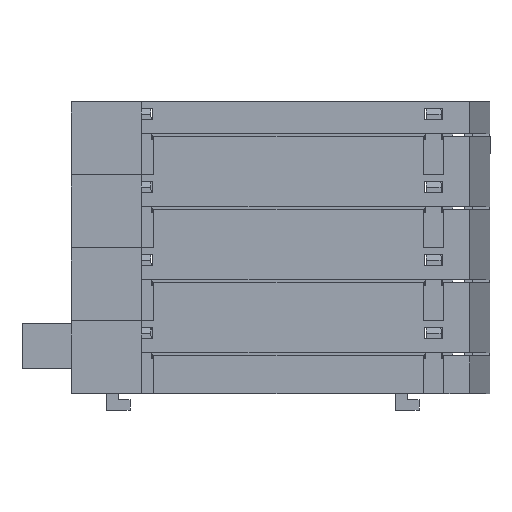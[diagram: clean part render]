
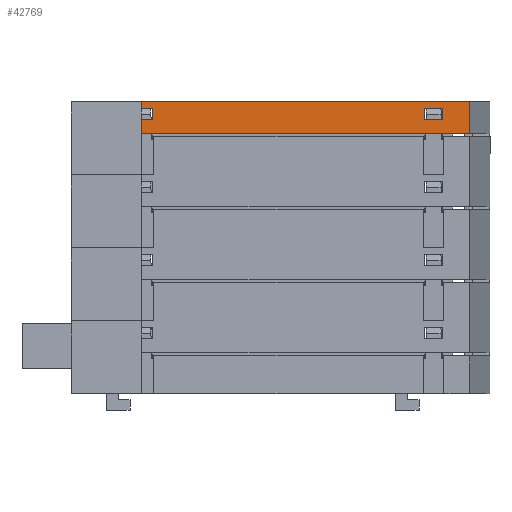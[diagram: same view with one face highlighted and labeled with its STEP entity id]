
A CAD part, left-side view. The second image highlights one B-rep face of the part: STEP entity #42769.
In plain terms, the highlighted planar face has unit normal (-1, 0, 0) as drawn and (0, -1, 0) by its records, which use the part's own axes.
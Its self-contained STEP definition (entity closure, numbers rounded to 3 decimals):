
#19 = ORIENTED_EDGE ( 'NONE', *, *, #40170, .T. ) ;
#1231 = CARTESIAN_POINT ( 'NONE',  ( 2.4, 0., -57.545 ) ) ;
#1249 = EDGE_CURVE ( 'NONE', #78023, #34772, #68730, .T. ) ;
#2098 = DIRECTION ( 'NONE',  ( 0., 0., -1. ) ) ;
#2558 = DIRECTION ( 'NONE',  ( 0., 0., 1. ) ) ;
#2934 = AXIS2_PLACEMENT_3D ( 'NONE', #75471, #56034, #69493 ) ;
#3217 = EDGE_CURVE ( 'NONE', #11211, #75873, #22570, .T. ) ;
#5121 = VECTOR ( 'NONE', #64953, 1000. ) ;
#6772 = VERTEX_POINT ( 'NONE', #62043 ) ;
#8327 = CARTESIAN_POINT ( 'NONE',  ( 2.4, 0., -60.645 ) ) ;
#8829 = CARTESIAN_POINT ( 'NONE',  ( 4.4, 0., -60.645 ) ) ;
#9045 = ORIENTED_EDGE ( 'NONE', *, *, #64844, .T. ) ;
#9270 = CARTESIAN_POINT ( 'NONE',  ( 2.4, 0., -60.645 ) ) ;
#9346 = EDGE_CURVE ( 'NONE', #17632, #37187, #44613, .T. ) ;
#11211 = VERTEX_POINT ( 'NONE', #41619 ) ;
#11876 = CARTESIAN_POINT ( 'NONE',  ( 0., 0., 0. ) ) ;
#12423 = VECTOR ( 'NONE', #20308, 1000. ) ;
#13616 = CARTESIAN_POINT ( 'NONE',  ( 5.5, 0., 0. ) ) ;
#14176 = CARTESIAN_POINT ( 'NONE',  ( 0., 0., 0. ) ) ;
#14658 = EDGE_LOOP ( 'NONE', ( #32491, #25393, #37541, #19 ) ) ;
#16164 = CARTESIAN_POINT ( 'NONE',  ( 2.4, 0., -60.645 ) ) ;
#17284 = CARTESIAN_POINT ( 'NONE',  ( 5.5, 0., 0. ) ) ;
#17632 = VERTEX_POINT ( 'NONE', #23940 ) ;
#19520 = LINE ( 'NONE', #1231, #12423 ) ;
#20308 = DIRECTION ( 'NONE',  ( 1., 0., 0. ) ) ;
#22036 = EDGE_CURVE ( 'NONE', #74370, #11211, #42747, .T. ) ;
#22304 = CARTESIAN_POINT ( 'NONE',  ( 4.4, 0., -10.945 ) ) ;
#22570 = LINE ( 'NONE', #61097, #52031 ) ;
#22925 = CARTESIAN_POINT ( 'NONE',  ( 2.4, 0., -10.945 ) ) ;
#23940 = CARTESIAN_POINT ( 'NONE',  ( 4.4, 0., -60.645 ) ) ;
#24787 = CARTESIAN_POINT ( 'NONE',  ( 2.4, 0., -10.945 ) ) ;
#25315 = VECTOR ( 'NONE', #55882, 1000. ) ;
#25393 = ORIENTED_EDGE ( 'NONE', *, *, #3217, .F. ) ;
#25664 = VERTEX_POINT ( 'NONE', #11876 ) ;
#26490 = CARTESIAN_POINT ( 'NONE',  ( 0., 0., -65.25 ) ) ;
#26616 = EDGE_CURVE ( 'NONE', #25664, #75873, #32194, .T. ) ;
#26672 = VECTOR ( 'NONE', #2558, 1000. ) ;
#28203 = DIRECTION ( 'NONE',  ( -1., 0., 0. ) ) ;
#28348 = LINE ( 'NONE', #22304, #5121 ) ;
#29958 = ORIENTED_EDGE ( 'NONE', *, *, #53140, .T. ) ;
#31552 = ORIENTED_EDGE ( 'NONE', *, *, #62838, .T. ) ;
#32194 = LINE ( 'NONE', #14176, #75654 ) ;
#32491 = ORIENTED_EDGE ( 'NONE', *, *, #26616, .T. ) ;
#32577 = DIRECTION ( 'NONE',  ( 1., 0., 0. ) ) ;
#33720 = EDGE_LOOP ( 'NONE', ( #9045, #65513, #40112, #73793 ) ) ;
#33898 = DIRECTION ( 'NONE',  ( -1., 0., 0. ) ) ;
#34772 = VERTEX_POINT ( 'NONE', #40253 ) ;
#36361 = LINE ( 'NONE', #42698, #42123 ) ;
#37187 = VERTEX_POINT ( 'NONE', #16164 ) ;
#37541 = ORIENTED_EDGE ( 'NONE', *, *, #22036, .F. ) ;
#37998 = CARTESIAN_POINT ( 'NONE',  ( 2.4, 0., -7.845 ) ) ;
#38513 = PLANE ( 'NONE',  #2934 ) ;
#38543 = DIRECTION ( 'NONE',  ( 0., 0., 1. ) ) ;
#38758 = LINE ( 'NONE', #8829, #51881 ) ;
#39658 = EDGE_LOOP ( 'NONE', ( #65013, #31552, #70386, #29958 ) ) ;
#40112 = ORIENTED_EDGE ( 'NONE', *, *, #58835, .T. ) ;
#40170 = EDGE_CURVE ( 'NONE', #74370, #25664, #36361, .T. ) ;
#40253 = CARTESIAN_POINT ( 'NONE',  ( 4.4, 0., -7.845 ) ) ;
#40634 = VERTEX_POINT ( 'NONE', #41245 ) ;
#40984 = VECTOR ( 'NONE', #33898, 1000. ) ;
#41245 = CARTESIAN_POINT ( 'NONE',  ( 4.4, 0., -10.945 ) ) ;
#41619 = CARTESIAN_POINT ( 'NONE',  ( 5.5, 0., -65.25 ) ) ;
#42123 = VECTOR ( 'NONE', #72156, 1000. ) ;
#42698 = CARTESIAN_POINT ( 'NONE',  ( 5.5, 0., 0. ) ) ;
#42747 = LINE ( 'NONE', #13616, #25315 ) ;
#42769 = ADVANCED_FACE ( 'NONE', ( #68705, #75858, #45666 ), #38513, .F. ) ;
#44613 = LINE ( 'NONE', #8327, #40984 ) ;
#45666 = FACE_OUTER_BOUND ( 'NONE', #14658, .T. ) ;
#48734 = VECTOR ( 'NONE', #38543, 1000. ) ;
#51285 = LINE ( 'NONE', #68352, #48734 ) ;
#51881 = VECTOR ( 'NONE', #2098, 1000. ) ;
#52031 = VECTOR ( 'NONE', #28203, 1000. ) ;
#53140 = EDGE_CURVE ( 'NONE', #61488, #17632, #38758, .T. ) ;
#54302 = VECTOR ( 'NONE', #32577, 1000. ) ;
#55089 = LINE ( 'NONE', #24787, #77773 ) ;
#55882 = DIRECTION ( 'NONE',  ( 0., 0., -1. ) ) ;
#56034 = DIRECTION ( 'NONE',  ( 0., 1., 0. ) ) ;
#57242 = CARTESIAN_POINT ( 'NONE',  ( 2.4, 0., -7.845 ) ) ;
#57246 = DIRECTION ( 'NONE',  ( 0., 0., -1. ) ) ;
#58835 = EDGE_CURVE ( 'NONE', #34772, #40634, #28348, .T. ) ;
#59669 = CARTESIAN_POINT ( 'NONE',  ( 4.4, 0., -57.545 ) ) ;
#61097 = CARTESIAN_POINT ( 'NONE',  ( 5.5, 0., -65.25 ) ) ;
#61488 = VERTEX_POINT ( 'NONE', #59669 ) ;
#62043 = CARTESIAN_POINT ( 'NONE',  ( 2.4, 0., -57.545 ) ) ;
#62838 = EDGE_CURVE ( 'NONE', #37187, #6772, #63869, .T. ) ;
#63869 = LINE ( 'NONE', #9270, #26672 ) ;
#64021 = EDGE_CURVE ( 'NONE', #40634, #68958, #55089, .T. ) ;
#64844 = EDGE_CURVE ( 'NONE', #68958, #78023, #51285, .T. ) ;
#64953 = DIRECTION ( 'NONE',  ( 0., 0., -1. ) ) ;
#65013 = ORIENTED_EDGE ( 'NONE', *, *, #9346, .T. ) ;
#65513 = ORIENTED_EDGE ( 'NONE', *, *, #1249, .T. ) ;
#67005 = DIRECTION ( 'NONE',  ( -1., 0., 0. ) ) ;
#68352 = CARTESIAN_POINT ( 'NONE',  ( 2.4, 0., -10.945 ) ) ;
#68705 = FACE_BOUND ( 'NONE', #33720, .T. ) ;
#68730 = LINE ( 'NONE', #57242, #54302 ) ;
#68958 = VERTEX_POINT ( 'NONE', #22925 ) ;
#69493 = DIRECTION ( 'NONE',  ( 0., 0., 1. ) ) ;
#70386 = ORIENTED_EDGE ( 'NONE', *, *, #78419, .T. ) ;
#72156 = DIRECTION ( 'NONE',  ( -1., 0., 0. ) ) ;
#73793 = ORIENTED_EDGE ( 'NONE', *, *, #64021, .T. ) ;
#74370 = VERTEX_POINT ( 'NONE', #17284 ) ;
#75471 = CARTESIAN_POINT ( 'NONE',  ( 5.5, 0., 0. ) ) ;
#75654 = VECTOR ( 'NONE', #57246, 1000. ) ;
#75858 = FACE_BOUND ( 'NONE', #39658, .T. ) ;
#75873 = VERTEX_POINT ( 'NONE', #26490 ) ;
#77773 = VECTOR ( 'NONE', #67005, 1000. ) ;
#78023 = VERTEX_POINT ( 'NONE', #37998 ) ;
#78419 = EDGE_CURVE ( 'NONE', #6772, #61488, #19520, .T. ) ;
